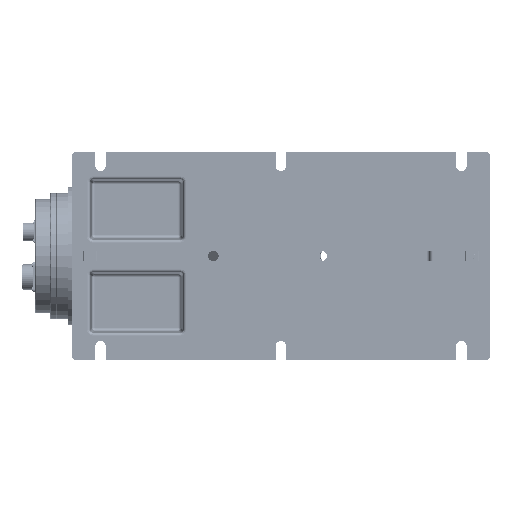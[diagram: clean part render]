
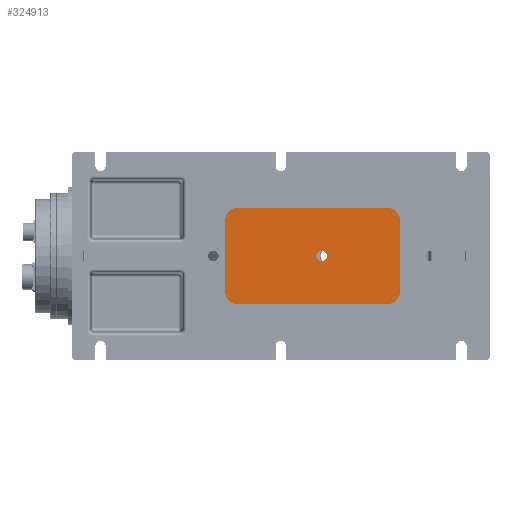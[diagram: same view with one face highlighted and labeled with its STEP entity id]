
A CAD part, front view. The second image highlights one B-rep face of the part: STEP entity #324913.
In plain terms, the highlighted planar face has unit normal (0, -1, 0).
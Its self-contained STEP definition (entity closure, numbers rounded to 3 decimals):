
#7751 = LINE ( 'NONE', #218159, #67089 ) ;
#9138 = ORIENTED_EDGE ( 'NONE', *, *, #191433, .T. ) ;
#12231 = AXIS2_PLACEMENT_3D ( 'NONE', #41004, #249866, #215924 ) ;
#16912 = LINE ( 'NONE', #262789, #106264 ) ;
#19210 = DIRECTION ( 'NONE',  ( 0., -1., 0. ) ) ;
#19673 = DIRECTION ( 'NONE',  ( 0., 0., 1. ) ) ;
#20322 = EDGE_CURVE ( 'NONE', #168021, #306752, #82039, .T. ) ;
#22503 = ORIENTED_EDGE ( 'NONE', *, *, #99516, .T. ) ;
#31737 = ORIENTED_EDGE ( 'NONE', *, *, #225965, .T. ) ;
#33313 = VERTEX_POINT ( 'NONE', #199348 ) ;
#33916 = DIRECTION ( 'NONE',  ( 0., 1., 0. ) ) ;
#35081 = EDGE_CURVE ( 'NONE', #254759, #313582, #16912, .T. ) ;
#36150 = CARTESIAN_POINT ( 'NONE',  ( 115.1, -264., 80. ) ) ;
#36467 = DIRECTION ( 'NONE',  ( -1., 0., 0. ) ) ;
#41004 = CARTESIAN_POINT ( 'NONE',  ( -154.9, -264., 60. ) ) ;
#50632 = CIRCLE ( 'NONE', #240375, 20. ) ;
#52205 = AXIS2_PLACEMENT_3D ( 'NONE', #162983, #33916, #220624 ) ;
#55867 = CARTESIAN_POINT ( 'NONE',  ( -82.4, -264., 0. ) ) ;
#67089 = VECTOR ( 'NONE', #36467, 1000. ) ;
#68388 = ORIENTED_EDGE ( 'NONE', *, *, #231016, .T. ) ;
#69757 = DIRECTION ( 'NONE',  ( 0., 1., 0. ) ) ;
#76143 = CARTESIAN_POINT ( 'NONE',  ( -154.9, -264., -80. ) ) ;
#79091 = VERTEX_POINT ( 'NONE', #76143 ) ;
#82039 = LINE ( 'NONE', #36150, #317062 ) ;
#91856 = ORIENTED_EDGE ( 'NONE', *, *, #331095, .F. ) ;
#99309 = CARTESIAN_POINT ( 'NONE',  ( 115.1, -264., -80. ) ) ;
#99516 = EDGE_CURVE ( 'NONE', #305949, #248737, #333717, .T. ) ;
#99786 = AXIS2_PLACEMENT_3D ( 'NONE', #272181, #19210, #299282 ) ;
#100324 = EDGE_CURVE ( 'NONE', #248737, #174543, #281055, .T. ) ;
#101397 = CARTESIAN_POINT ( 'NONE',  ( 95.1, -264., -80. ) ) ;
#105855 = AXIS2_PLACEMENT_3D ( 'NONE', #302380, #69757, #276932 ) ;
#106264 = VECTOR ( 'NONE', #308611, 1000. ) ;
#119277 = PLANE ( 'NONE',  #165394 ) ;
#130431 = CARTESIAN_POINT ( 'NONE',  ( 115.1, -264., 60. ) ) ;
#133761 = CARTESIAN_POINT ( 'NONE',  ( -174.9, -264., -60. ) ) ;
#141512 = FACE_OUTER_BOUND ( 'NONE', #281067, .T. ) ;
#147545 = CARTESIAN_POINT ( 'NONE',  ( -154.9, -264., 80. ) ) ;
#153704 = CARTESIAN_POINT ( 'NONE',  ( -174.9, -264., 60. ) ) ;
#154948 = CIRCLE ( 'NONE', #105855, 8.75 ) ;
#159485 = DIRECTION ( 'NONE',  ( 0., 0., -1. ) ) ;
#162901 = ORIENTED_EDGE ( 'NONE', *, *, #100324, .T. ) ;
#162983 = CARTESIAN_POINT ( 'NONE',  ( -14.9, -264., 0. ) ) ;
#165394 = AXIS2_PLACEMENT_3D ( 'NONE', #55867, #259755, #159485 ) ;
#166194 = DIRECTION ( 'NONE',  ( 0., -1., 0. ) ) ;
#168021 = VERTEX_POINT ( 'NONE', #237137 ) ;
#174543 = VERTEX_POINT ( 'NONE', #130431 ) ;
#183185 = EDGE_CURVE ( 'NONE', #33313, #255773, #274444, .T. ) ;
#190012 = CARTESIAN_POINT ( 'NONE',  ( -154.9, -264., -60. ) ) ;
#191433 = EDGE_CURVE ( 'NONE', #255773, #33313, #154948, .T. ) ;
#194630 = ORIENTED_EDGE ( 'NONE', *, *, #20322, .T. ) ;
#199348 = CARTESIAN_POINT ( 'NONE',  ( -14.9, -264., -8.75 ) ) ;
#210498 = DIRECTION ( 'NONE',  ( 0., -1., 0. ) ) ;
#215924 = DIRECTION ( 'NONE',  ( 0., 0., -1. ) ) ;
#218017 = ORIENTED_EDGE ( 'NONE', *, *, #183185, .T. ) ;
#218159 = CARTESIAN_POINT ( 'NONE',  ( 115.1, -264., -80. ) ) ;
#220624 = DIRECTION ( 'NONE',  ( 0., 0., -1. ) ) ;
#225965 = EDGE_CURVE ( 'NONE', #174543, #168021, #258716, .T. ) ;
#231016 = EDGE_CURVE ( 'NONE', #306752, #313582, #267076, .T. ) ;
#235023 = ORIENTED_EDGE ( 'NONE', *, *, #35081, .F. ) ;
#237137 = CARTESIAN_POINT ( 'NONE',  ( 95.1, -264., 80. ) ) ;
#240375 = AXIS2_PLACEMENT_3D ( 'NONE', #190012, #210498, #293560 ) ;
#248737 = VERTEX_POINT ( 'NONE', #296386 ) ;
#249866 = DIRECTION ( 'NONE',  ( 0., -1., 0. ) ) ;
#254759 = VERTEX_POINT ( 'NONE', #133761 ) ;
#255773 = VERTEX_POINT ( 'NONE', #311714 ) ;
#258716 = CIRCLE ( 'NONE', #307533, 20. ) ;
#259755 = DIRECTION ( 'NONE',  ( 0., 1., 0. ) ) ;
#262789 = CARTESIAN_POINT ( 'NONE',  ( -174.9, -264., -80. ) ) ;
#267076 = CIRCLE ( 'NONE', #12231, 20. ) ;
#267142 = DIRECTION ( 'NONE',  ( -1., 0., 0. ) ) ;
#272181 = CARTESIAN_POINT ( 'NONE',  ( 95.1, -264., -60. ) ) ;
#273856 = FACE_BOUND ( 'NONE', #327883, .T. ) ;
#274444 = CIRCLE ( 'NONE', #52205, 8.75 ) ;
#276932 = DIRECTION ( 'NONE',  ( 0., 0., -1. ) ) ;
#281055 = LINE ( 'NONE', #99309, #290211 ) ;
#281067 = EDGE_LOOP ( 'NONE', ( #162901, #31737, #194630, #68388, #235023, #326384, #91856, #22503 ) ) ;
#286916 = EDGE_CURVE ( 'NONE', #254759, #79091, #50632, .T. ) ;
#290211 = VECTOR ( 'NONE', #19673, 1000. ) ;
#293560 = DIRECTION ( 'NONE',  ( 0., 0., -1. ) ) ;
#296386 = CARTESIAN_POINT ( 'NONE',  ( 115.1, -264., -60. ) ) ;
#299282 = DIRECTION ( 'NONE',  ( 0., 0., -1. ) ) ;
#302380 = CARTESIAN_POINT ( 'NONE',  ( -14.9, -264., 0. ) ) ;
#305949 = VERTEX_POINT ( 'NONE', #101397 ) ;
#306752 = VERTEX_POINT ( 'NONE', #147545 ) ;
#307533 = AXIS2_PLACEMENT_3D ( 'NONE', #318924, #166194, #317237 ) ;
#308611 = DIRECTION ( 'NONE',  ( 0., 0., 1. ) ) ;
#311714 = CARTESIAN_POINT ( 'NONE',  ( -14.9, -264., 8.75 ) ) ;
#313582 = VERTEX_POINT ( 'NONE', #153704 ) ;
#317062 = VECTOR ( 'NONE', #267142, 1000. ) ;
#317237 = DIRECTION ( 'NONE',  ( 0., 0., -1. ) ) ;
#318924 = CARTESIAN_POINT ( 'NONE',  ( 95.1, -264., 60. ) ) ;
#324913 = ADVANCED_FACE ( 'NONE', ( #273856, #141512 ), #119277, .F. ) ;
#326384 = ORIENTED_EDGE ( 'NONE', *, *, #286916, .T. ) ;
#327883 = EDGE_LOOP ( 'NONE', ( #218017, #9138 ) ) ;
#331095 = EDGE_CURVE ( 'NONE', #305949, #79091, #7751, .T. ) ;
#333717 = CIRCLE ( 'NONE', #99786, 20. ) ;
